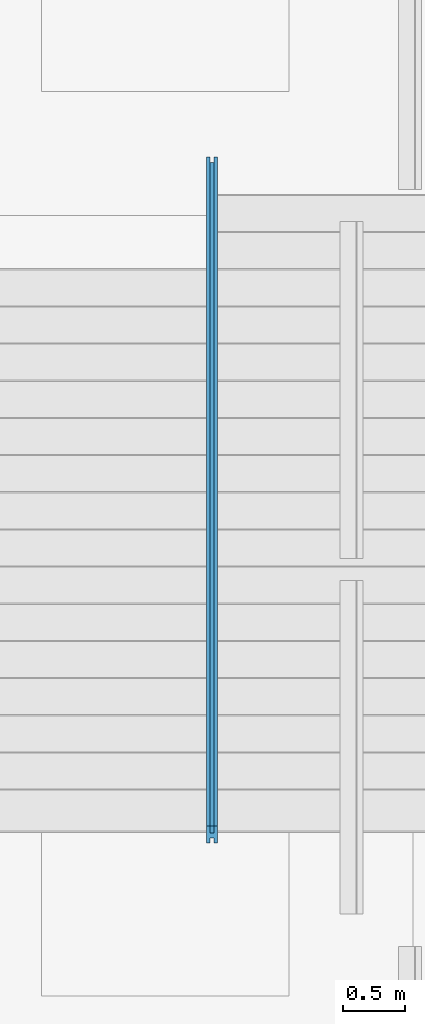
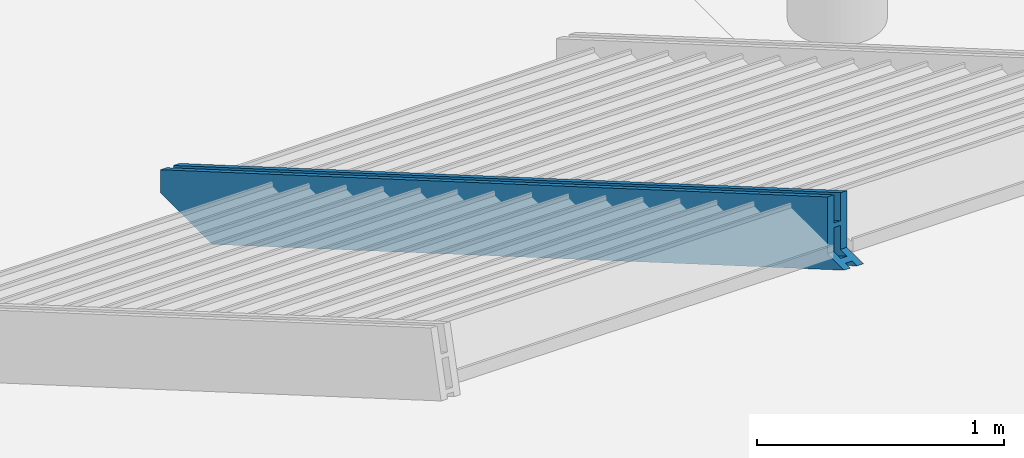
# One storey, part 25 of 42: 1 beam.
"""IFC2X3 building model written with IfcOpenShell, lengths in millimetres."""

from ifc_helpers import new_model, entity, si_unit, converted_unit, derived_unit, direction, frame, frame_2d, origin, place, context, subcontext, project, spatial, polyline, rectangle, extrude, clip, halfspace, bounded_halfspace, source, transform, mapped, material, type_object, type_shapes, element, save


model = new_model("IFC2X3")

# Units and contexts
model_context = context("Model", 3, precision=0.01, world=origin(), true_north=direction((6.12303176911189e-17, 1.0)))
body_context = subcontext(model_context, "Body", "Model", "MODEL_VIEW")
ifc_project = project(units=[si_unit("LENGTHUNIT", "METRE", prefix="MILLI"), si_unit("AREAUNIT", "SQUARE_METRE", prefix="MILLI"), si_unit("VOLUMEUNIT", "CUBIC_METRE"), converted_unit("PLANEANGLEUNIT", "DEGREE", entity("IfcRatioMeasure", 0.0174532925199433), si_unit("PLANEANGLEUNIT", "RADIAN"), dimensions=[0, 0, 0, 0, 0, 0, 0]), si_unit("MASSUNIT", "GRAM", prefix="KILO"), derived_unit("MASSDENSITYUNIT", [(si_unit("MASSUNIT", "GRAM", prefix="KILO"), 1), (si_unit("LENGTHUNIT", "METRE"), -3)]), derived_unit("MOMENTOFINERTIAUNIT", [(si_unit("LENGTHUNIT", "METRE"), 4)]), si_unit("TIMEUNIT", "SECOND"), si_unit("FREQUENCYUNIT", "HERTZ"), si_unit("THERMODYNAMICTEMPERATUREUNIT", "DEGREE_CELSIUS"), derived_unit("THERMALTRANSMITTANCEUNIT", [(si_unit("MASSUNIT", "GRAM", prefix="KILO"), 1), (si_unit("THERMODYNAMICTEMPERATUREUNIT", "KELVIN"), -1), (si_unit("TIMEUNIT", "SECOND"), -3)]), derived_unit("VOLUMETRICFLOWRATEUNIT", [(si_unit("LENGTHUNIT", "METRE"), 3), (si_unit("TIMEUNIT", "SECOND"), -1)]), si_unit("ELECTRICCURRENTUNIT", "AMPERE"), si_unit("ELECTRICVOLTAGEUNIT", "VOLT"), si_unit("POWERUNIT", "WATT"), si_unit("FORCEUNIT", "NEWTON", prefix="KILO"), si_unit("ILLUMINANCEUNIT", "LUX"), si_unit("LUMINOUSFLUXUNIT", "LUMEN"), si_unit("LUMINOUSINTENSITYUNIT", "CANDELA"), derived_unit("USERDEFINED", [(si_unit("MASSUNIT", "GRAM", prefix="KILO"), -1), (si_unit("LENGTHUNIT", "METRE"), -2), (si_unit("TIMEUNIT", "SECOND"), 3), (si_unit("LUMINOUSFLUXUNIT", "LUMEN"), 1)]), derived_unit("LINEARVELOCITYUNIT", [(si_unit("LENGTHUNIT", "METRE"), 1), (si_unit("TIMEUNIT", "SECOND"), -1)]), si_unit("PRESSUREUNIT", "PASCAL"), derived_unit("USERDEFINED", [(si_unit("LENGTHUNIT", "METRE"), -2), (si_unit("MASSUNIT", "GRAM", prefix="KILO"), 1), (si_unit("TIMEUNIT", "SECOND"), -2)]), derived_unit("LINEARFORCEUNIT", [(si_unit("MASSUNIT", "GRAM", prefix="KILO"), 1), (si_unit("LENGTHUNIT", "METRE"), 1), (si_unit("TIMEUNIT", "SECOND"), -2), (si_unit("LENGTHUNIT", "METRE"), -1)]), derived_unit("PLANARFORCEUNIT", [(si_unit("MASSUNIT", "GRAM", prefix="KILO"), 1), (si_unit("LENGTHUNIT", "METRE"), 1), (si_unit("TIMEUNIT", "SECOND"), -2), (si_unit("LENGTHUNIT", "METRE"), -2)])], contexts=[model_context])

# Site, building, storey
site_placement = place(None, origin())
site = spatial("IfcSite", under=ifc_project, at=site_placement, Name="Theater aan de Parade", CompositionType="ELEMENT")
building_placement = place(site_placement, origin())
building = spatial("IfcBuilding", under=site, at=building_placement, Name="Theater aan de Parade", CompositionType="ELEMENT")
storey_placement = place(building_placement, frame((0.0, 0.0, -3300.0)))
storey = spatial("IfcBuildingStorey", under=building, at=storey_placement, Name="-1 kelder", CompositionType="ELEMENT", Elevation=-3300.0)

# Beam
ifc_material = material(Name="00_PBT_MAT_staal_S355")
beam_type = type_object("IfcBeamType", Name="28_PBT_SF_staal_trapboom_glas:trapboom", PredefinedType="BEAM", material=ifc_material)
shared_shape = source(origin(), body_context, "Body", "Clipping", [
    clip(clip(extrude(rectangle(XDim=20.0000000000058, YDim=30.0000000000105, at=frame_2d((-2.72848410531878e-12, 0.0), x_axis=(1.0, 0.0))), frame((39341.8281932, 35434.1848212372, -3228.64474830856), z_axis=(0.0, -0.864474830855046, 0.502676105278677), x_axis=(0.0, -0.502676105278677, -0.864474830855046)), (0.0, 0.0, 1.0), 5951.8647184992), halfspace(frame((47861.8281932, 35779.080900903, -3220.0), z_axis=(0.0, 0.0, -1.0), x_axis=(-1.0, 0.0, 0.0)), False)), halfspace(frame((47861.8281932, 28985.5135677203, -245.429320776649), z_axis=(0.0, 0.0, 1.0), x_axis=(-1.0, 0.0, 0.0)), False)),
    clip(clip(clip(clip(extrude(rectangle(XDim=310.000000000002, YDim=30.0000000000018, at=frame_2d((4.33164615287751e-12, -4.68958205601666e-13), x_axis=(0.0, 1.0))), frame((39371.8281932, 35751.0093632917, -3268.27589271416), z_axis=(0.0, -0.864474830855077, 0.502676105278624), x_axis=(1.0, 0.0, 0.0)), (0.0, 0.0, 1.0), 6304.22416542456), bounded_halfspace(frame((47861.8281932, 35779.080900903, -3220.0), z_axis=(0.0, 0.0, -1.0), x_axis=(-1.0, 0.0, 0.0)), False, frame((39371.8281932, 35751.0093632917, -3268.27589271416), z_axis=(0.0, -0.864474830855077, 0.502676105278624), x_axis=(1.0, 0.0, 0.0)), polyline([(-15.0, 55.8441853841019), (15.0, 55.8441853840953), (15.0, -155.0), (-15.0, -155.0), (-15.0, 55.8441853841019)]))), bounded_halfspace(frame((47861.8281932, 35779.080900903, -1469.07784659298), z_axis=(0.0, 1.0, 0.0), x_axis=(-1.0, 0.0, 0.0)), False, frame((39371.8281932, 35751.0093632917, -3268.27589271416), z_axis=(0.0, -0.864474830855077, 0.502676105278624), x_axis=(1.0, 0.0, 0.0)), polyline([(15.0, 55.8441853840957), (-15.0, 55.8441853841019), (-15.0, 155.0), (15.0, 155.0), (15.0, 55.8441853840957)]))), bounded_halfspace(frame((47861.8281932, 30379.081040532, -245.429320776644), z_axis=(0.0, -1.0, 0.0), x_axis=(-1.0, 0.0, 0.0)), False, frame((39371.8281932, 35751.0093632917, -3268.27589271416), z_axis=(0.0, -0.864474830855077, 0.502676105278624), x_axis=(1.0, 0.0, 0.0)), polyline([(-15.0, -87.1652281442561), (15.0, -87.1652281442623), (15.0, 155.0), (-15.0, 155.0), (-15.0, -87.1652281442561)]))), bounded_halfspace(frame((47861.8281932, 28985.5135677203, -245.429320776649), z_axis=(0.0, 0.0, 1.0), x_axis=(-1.0, 0.0, 0.0)), False, frame((39371.8281932, 35751.0093632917, -3268.27589271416), z_axis=(0.0, -0.864474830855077, 0.502676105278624), x_axis=(1.0, 0.0, 0.0)), polyline([(15.0, -87.1652281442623), (-15.0, -87.1652281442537), (-15.0, -155.0), (15.0, -155.0), (15.0, -87.1652281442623)]))),
    clip(clip(extrude(rectangle(XDim=19.9999999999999, YDim=30.0000000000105, at=frame_2d((-2.02504679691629e-12, 0.0), x_axis=(1.0, 0.0))), frame((39341.8281932, 35732.5877061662, -3228.64474830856), z_axis=(0.0, -0.864474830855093, 0.502676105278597), x_axis=(0.0, -0.502676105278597, -0.864474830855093)), (0.0, 0.0, 1.0), 6198.59969941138), halfspace(frame((47861.8281932, 35779.080900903, -3220.0), z_axis=(0.0, 0.0, -1.0), x_axis=(-1.0, 0.0, 0.0)), False)), halfspace(frame((47861.8281932, 30379.081040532, -245.429320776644), z_axis=(0.0, -1.0, 0.0), x_axis=(-1.0, 0.0, 0.0)), False)),
    clip(clip(clip(clip(extrude(rectangle(XDim=310.000000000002, YDim=29.9999999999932, at=frame_2d((0.0, -1.56319401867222e-12), x_axis=(0.0, 1.0))), frame((39311.8281932, 35751.0093632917, -3268.27589271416), z_axis=(0.0, -0.864474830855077, 0.502676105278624), x_axis=(1.0, 0.0, 0.0)), (0.0, 0.0, 1.0), 6304.22416542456), bounded_halfspace(frame((47861.8281932, 35779.080900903, -3220.0), z_axis=(0.0, 0.0, -1.0), x_axis=(-1.0, 0.0, 0.0)), False, frame((39311.8281932, 35751.0093632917, -3268.27589271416), z_axis=(0.0, -0.864474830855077, 0.502676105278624), x_axis=(1.0, 0.0, 0.0)), polyline([(-15.0, 55.844185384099), (15.0, 55.8441853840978), (15.0, -155.0), (-15.0, -155.0), (-15.0, 55.844185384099)]))), bounded_halfspace(frame((47861.8281932, 35779.080900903, -1469.07784659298), z_axis=(0.0, 1.0, 0.0), x_axis=(-1.0, 0.0, 0.0)), False, frame((39311.8281932, 35751.0093632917, -3268.27589271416), z_axis=(0.0, -0.864474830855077, 0.502676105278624), x_axis=(1.0, 0.0, 0.0)), polyline([(15.0, 55.8441853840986), (-15.0, 55.8441853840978), (-15.0, 155.0), (15.0, 155.0), (15.0, 55.8441853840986)]))), bounded_halfspace(frame((47861.8281932, 30379.081040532, -245.429320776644), z_axis=(0.0, -1.0, 0.0), x_axis=(-1.0, 0.0, 0.0)), False, frame((39311.8281932, 35751.0093632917, -3268.27589271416), z_axis=(0.0, -0.864474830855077, 0.502676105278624), x_axis=(1.0, 0.0, 0.0)), polyline([(-15.0, -87.1652281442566), (15.0, -87.1652281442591), (15.0, 155.0), (-15.0, 155.0), (-15.0, -87.1652281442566)]))), bounded_halfspace(frame((47861.8281932, 28985.5135677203, -245.429320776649), z_axis=(0.0, 0.0, 1.0), x_axis=(-1.0, 0.0, 0.0)), False, frame((39311.8281932, 35751.0093632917, -3268.27589271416), z_axis=(0.0, -0.864474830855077, 0.502676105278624), x_axis=(1.0, 0.0, 0.0)), polyline([(15.0, -87.1652281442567), (-15.0, -87.165228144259), (-15.0, -155.0), (15.0, -155.0), (15.0, -87.1652281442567)]))),
])
type_shapes(beam_type, [shared_shape])
beam_placement = place(storey_placement, frame((0.0, 0.0, 3300.0)))
element("IfcBeam", 1, at=beam_placement, inside=storey, type_object=beam_type, material=ifc_material, Name="28_PBT_SF_staal_trapboom_glas:trapboom", ObjectType="28_PBT_SF_staal_trapboom_glas:trapboom", context=body_context, shape_type="MappedRepresentation", body=[
    mapped(shared_shape, transform((0.0, 0.0, 0.0), scale=1.0)),
])

save(model, "model.ifc")
